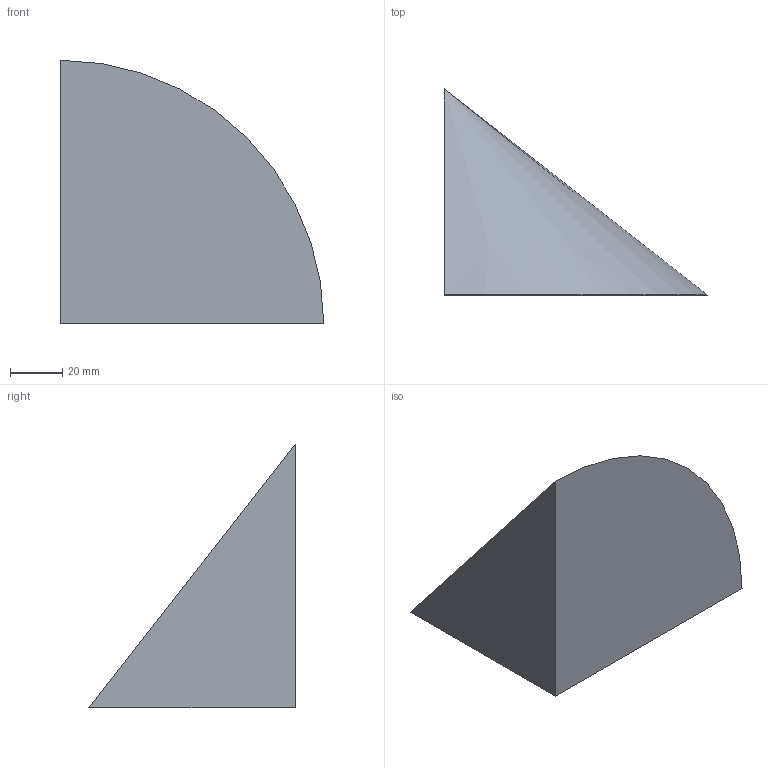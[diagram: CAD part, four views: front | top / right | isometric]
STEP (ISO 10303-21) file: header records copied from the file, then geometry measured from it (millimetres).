
FILE_DESCRIPTION(('CATIA V5 STEP Exchange'),'2;1');
FILE_NAME('C:\_Andres\UNIVERSIDAD\IQS\ASIGNATURAS\DAO\EXF\EXF-16172c\2inicio\Altirriba_Cusco_Ej07_v1.stp','2017-03-05T21:18:10+00:00',('none'),('none'),'CATIA Version 5-6 Release 2014 SP1 HF18','CATIA V5 STEP AP203','none');
FILE_SCHEMA(('CONFIG_CONTROL_DESIGN'));
Length unit declared in the file: millimetre
Products named in the file (1): Altirriba_Cusco_Ej07_v1
Bounding box: 101 x 79 x 101 mm (x, y, z)
Volume: 210978.6 mm3; surface area: 26162.4 mm2
Topology: 1 solids, 1 shells, 4 faces, 7 edges, 4 vertices
Faces by surface type: plane 3, cone 1
Entity records: 131 total; most frequent: CARTESIAN_POINT 15, DIRECTION 14, ORIENTED_EDGE 12, AXIS2_PLACEMENT_3D 6, EDGE_CURVE 6, VECTOR 5, LINE 5, ADVANCED_FACE 4
